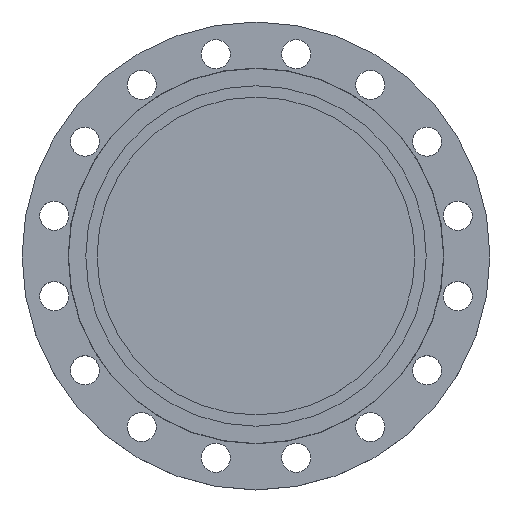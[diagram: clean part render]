
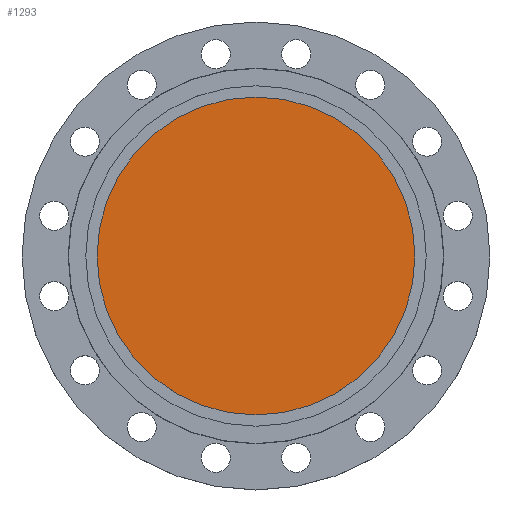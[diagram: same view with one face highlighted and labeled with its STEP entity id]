
A CAD part, top view. The second image highlights one B-rep face of the part: STEP entity #1293.
In plain terms, the highlighted planar face has unit normal (0, 0, 1).
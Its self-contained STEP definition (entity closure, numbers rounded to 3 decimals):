
#129 = DIRECTION ( 'NONE',  ( 1., 0., 0. ) ) ;
#131 = DIRECTION ( 'NONE',  ( 0., 0., 1. ) ) ;
#133 = CARTESIAN_POINT ( 'NONE',  ( 0., 0., 0. ) ) ;
#134 = PLANE ( 'NONE',  #1564 ) ;
#135 = FACE_OUTER_BOUND ( 'NONE', #1507, .T. ) ;
#257 = CARTESIAN_POINT ( 'NONE',  ( 197., 0., 0. ) ) ;
#285 = CARTESIAN_POINT ( 'NONE',  ( -197., 0., 0. ) ) ;
#323 = EDGE_CURVE ( 'NONE', #1599, #1133, #791, .T. ) ;
#404 = EDGE_CURVE ( 'NONE', #1133, #1599, #1340, .T. ) ;
#645 = DIRECTION ( 'NONE',  ( -1., 0., 0. ) ) ;
#646 = DIRECTION ( 'NONE',  ( 0., 0., -1. ) ) ;
#647 = CARTESIAN_POINT ( 'NONE',  ( 0., 0., 0. ) ) ;
#672 = DIRECTION ( 'NONE',  ( -1., 0., 0. ) ) ;
#673 = DIRECTION ( 'NONE',  ( 0., 0., -1. ) ) ;
#674 = CARTESIAN_POINT ( 'NONE',  ( 0., 0., 0. ) ) ;
#791 = CIRCLE ( 'NONE', #806, 197. ) ;
#806 = AXIS2_PLACEMENT_3D ( 'NONE', #674, #673, #672 ) ;
#833 = AXIS2_PLACEMENT_3D ( 'NONE', #647, #646, #645 ) ;
#1069 = ORIENTED_EDGE ( 'NONE', *, *, #323, .F. ) ;
#1133 = VERTEX_POINT ( 'NONE', #285 ) ;
#1293 = ADVANCED_FACE ( 'NONE', ( #135 ), #134, .T. ) ;
#1340 = CIRCLE ( 'NONE', #833, 197. ) ;
#1507 = EDGE_LOOP ( 'NONE', ( #1520, #1069 ) ) ;
#1520 = ORIENTED_EDGE ( 'NONE', *, *, #404, .F. ) ;
#1564 = AXIS2_PLACEMENT_3D ( 'NONE', #133, #131, #129 ) ;
#1599 = VERTEX_POINT ( 'NONE', #257 ) ;
